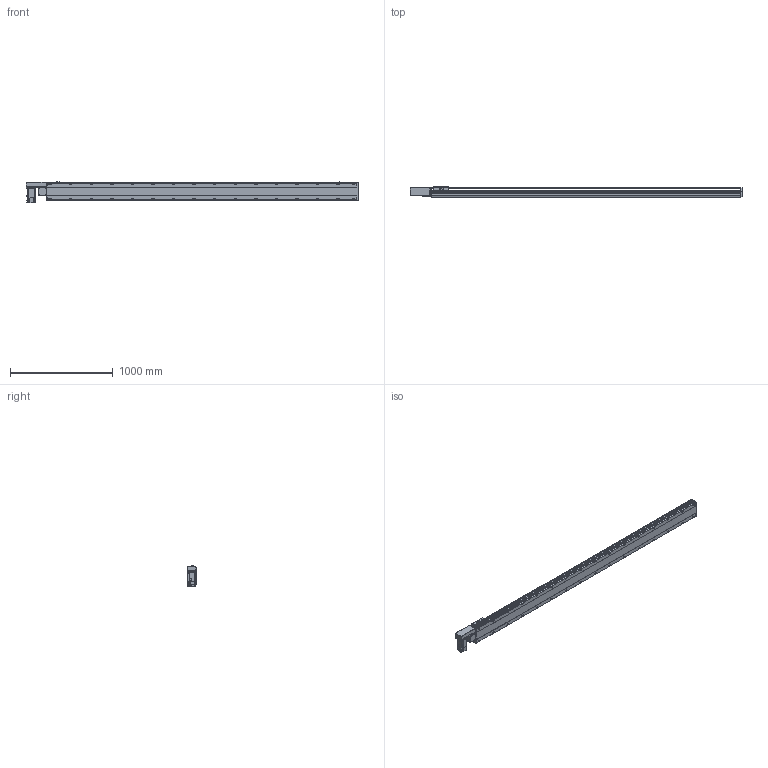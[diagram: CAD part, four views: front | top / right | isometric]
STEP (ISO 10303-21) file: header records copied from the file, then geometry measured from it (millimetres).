
FILE_DESCRIPTION( ( 'STEP AP214' ), '1' );
FILE_NAME( 'x:/temp/worker_4/temp/exporttempdir_2248_298_ybsKM/format_0/PBS170-P40-S2750-R-T75-C1-N(0).stp', '2022-06-07T07:33:04', ( 'License CC BY-ND 4.0' ), ( 'CADENAS' ), ' ', 'PARTsolutions', ' ' );
FILE_SCHEMA( ( 'AUTOMOTIVE_DESIGN { 1 0 10303 214 1 1 1 1 }' ) );
Length unit declared in the file: millimetre
Products named in the file (7): PBS170-P40-S2750-R-T75-C1-N(0); _PBS170-S2750()_body; _PBS170T-R_motors; _T75-p1; _PBS170_sliser; _PBS170_plant; _PBS170_sensor
Assembly tree (8 placements, depth 2):
  PBS170-P40-S2750-R-T75-C1-N(0)
    _PBS170-S2750()_body
    _PBS170T-R_motors
    _T75-p1
    _PBS170_sliser
    _PBS170_plant
    _PBS170_sensor  x3
Bounding box: 3228 x 97 x 205.3 mm (x, y, z)
Volume: 23460279.2 mm3; surface area: 2944360 mm2
Topology: 8 solids, 8 shells, 1210 faces, 3195 edges, 2082 vertices
Faces by surface type: plane 735, cylinder 403, cone 62, sphere 8, torus 2
Full cylindrical faces by diameter (mm): 3.242 x4, 4 x2, 4.4 x4, 4.5 x6, 4.917 x4, 6 x9, 6.647 x40, 7 x2, 7.5 x4, 8 x8, 8.5 x32, 10 x4, 10.5 x32, 11 x2, 30 x2, 40 x1, 70 x1
Entity records: 44876 total; most frequent: CARTESIAN_POINT 7565, DIRECTION 5860, ORIENTED_EDGE 5508, EDGE_CURVE 2754, AXIS2_PLACEMENT_3D 2077, VERTEX_POINT 1922, LINE 1706, VECTOR 1706
